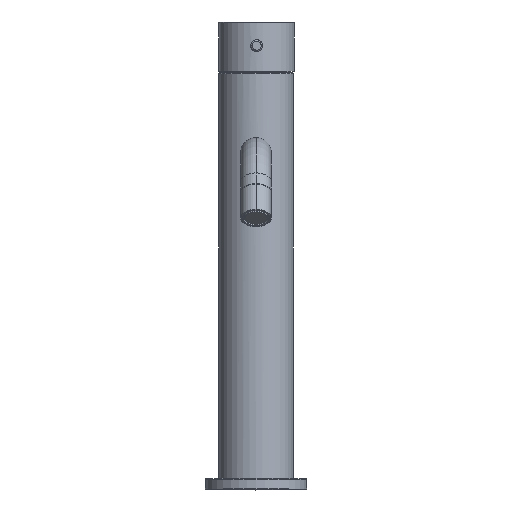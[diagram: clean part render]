
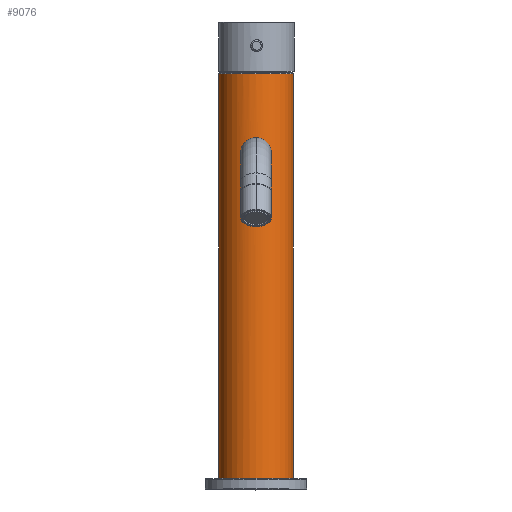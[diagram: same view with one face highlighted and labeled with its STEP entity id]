
A CAD part, top view. The second image highlights one B-rep face of the part: STEP entity #9076.
In plain terms, the highlighted cylindrical face has radius 22 mm (diameter 44 mm), a partial arc.
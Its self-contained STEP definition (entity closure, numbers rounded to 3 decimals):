
#1035=DIRECTION('',(0.,1.,0.));
#1036=VECTOR('',#1035,239.);
#1037=CARTESIAN_POINT('',(22.,-98.5,0.));
#1038=LINE('',#1037,#1036);
#1044=DIRECTION('',(0.,-1.,0.));
#1045=VECTOR('',#1044,239.);
#1046=CARTESIAN_POINT('',(-22.,140.5,
0.));
#1047=LINE('',#1046,#1045);
#2467=CARTESIAN_POINT('',(0.,140.5,0.));
#2468=DIRECTION('',(0.,-1.,0.));
#2469=DIRECTION('',(1.,0.,0.));
#2470=AXIS2_PLACEMENT_3D('',#2467,#2468,#2469);
#2472=CARTESIAN_POINT('',(0.,-98.5,0.));
#2473=DIRECTION('',(0.,1.,0.));
#2474=DIRECTION('',(-1.,0.,0.));
#2475=AXIS2_PLACEMENT_3D('',#2472,#2473,#2474);
#2477=CARTESIAN_POINT('',(-9.1,93.5,20.03));
#2478=CARTESIAN_POINT('',(-9.1,93.231,20.03));
#2479=CARTESIAN_POINT('',(-9.076,92.694,20.041));
#2480=CARTESIAN_POINT('',(-8.968,91.885,20.089));
#2481=CARTESIAN_POINT('',(-8.787,91.086,20.17));
#2482=CARTESIAN_POINT('',(-8.53,90.293,20.28));
#2483=CARTESIAN_POINT('',(-8.198,89.52,20.417));
#2484=CARTESIAN_POINT('',(-7.788,88.767,20.577));
#2485=CARTESIAN_POINT('',(-7.305,88.051,20.754));
#2486=CARTESIAN_POINT('',(-6.751,87.377,20.942));
#2487=CARTESIAN_POINT('',(-6.134,86.76,21.131));
#2488=CARTESIAN_POINT('',(-5.465,86.206,21.315));
#2489=CARTESIAN_POINT('',(-4.749,85.722,21.486));
#2490=CARTESIAN_POINT('',(-4.002,85.313,21.638));
#2491=CARTESIAN_POINT('',(-3.226,84.977,21.767));
#2492=CARTESIAN_POINT('',(-2.435,84.719,21.87));
#2493=CARTESIAN_POINT('',(-1.629,84.534,21.945));
#2494=CARTESIAN_POINT('',(-0.817,84.424,
21.99));
#2495=CARTESIAN_POINT('',(0.,84.388,
22.005));
#2496=CARTESIAN_POINT('',(0.817,84.424,21.99));
#2497=CARTESIAN_POINT('',(1.629,84.534,21.945));
#2498=CARTESIAN_POINT('',(2.435,84.719,21.87));
#2499=CARTESIAN_POINT('',(3.226,84.977,21.767));
#2500=CARTESIAN_POINT('',(4.002,85.313,21.638));
#2501=CARTESIAN_POINT('',(4.749,85.722,21.486));
#2502=CARTESIAN_POINT('',(5.465,86.206,21.315));
#2503=CARTESIAN_POINT('',(6.134,86.76,21.131));
#2504=CARTESIAN_POINT('',(6.751,87.377,20.942));
#2505=CARTESIAN_POINT('',(7.305,88.051,20.754));
#2506=CARTESIAN_POINT('',(7.788,88.767,20.577));
#2507=CARTESIAN_POINT('',(8.198,89.52,20.417));
#2508=CARTESIAN_POINT('',(8.53,90.293,20.28));
#2509=CARTESIAN_POINT('',(8.787,91.086,20.17));
#2510=CARTESIAN_POINT('',(8.968,91.885,20.089));
#2511=CARTESIAN_POINT('',(9.076,92.694,20.041));
#2512=CARTESIAN_POINT('',(9.1,93.231,20.03));
#2513=CARTESIAN_POINT('',(9.1,93.5,20.03));
#2515=CARTESIAN_POINT('',(9.1,93.5,20.03));
#2516=CARTESIAN_POINT('',(9.1,93.769,20.03));
#2517=CARTESIAN_POINT('',(9.076,94.306,20.041));
#2518=CARTESIAN_POINT('',(8.968,95.115,20.089));
#2519=CARTESIAN_POINT('',(8.787,95.914,20.17));
#2520=CARTESIAN_POINT('',(8.53,96.707,20.28));
#2521=CARTESIAN_POINT('',(8.198,97.48,20.417));
#2522=CARTESIAN_POINT('',(7.788,98.233,20.577));
#2523=CARTESIAN_POINT('',(7.305,98.949,20.754));
#2524=CARTESIAN_POINT('',(6.751,99.623,20.942));
#2525=CARTESIAN_POINT('',(6.134,100.24,21.131));
#2526=CARTESIAN_POINT('',(5.465,100.794,21.315));
#2527=CARTESIAN_POINT('',(4.749,101.278,21.486));
#2528=CARTESIAN_POINT('',(4.002,101.687,21.638));
#2529=CARTESIAN_POINT('',(3.226,102.023,21.767));
#2530=CARTESIAN_POINT('',(2.435,102.281,21.87));
#2531=CARTESIAN_POINT('',(1.629,102.466,21.945));
#2532=CARTESIAN_POINT('',(0.817,102.576,21.99));
#2533=CARTESIAN_POINT('',(0.,102.612,22.005));
#2534=CARTESIAN_POINT('',(-0.817,102.576,
21.99));
#2535=CARTESIAN_POINT('',(-1.629,102.466,21.945));
#2536=CARTESIAN_POINT('',(-2.435,102.281,21.87));
#2537=CARTESIAN_POINT('',(-3.226,102.023,21.767));
#2538=CARTESIAN_POINT('',(-4.002,101.687,21.638));
#2539=CARTESIAN_POINT('',(-4.749,101.278,21.486));
#2540=CARTESIAN_POINT('',(-5.465,100.794,21.315));
#2541=CARTESIAN_POINT('',(-6.134,100.24,21.131));
#2542=CARTESIAN_POINT('',(-6.751,99.623,20.942));
#2543=CARTESIAN_POINT('',(-7.305,98.949,20.754));
#2544=CARTESIAN_POINT('',(-7.788,98.233,20.577));
#2545=CARTESIAN_POINT('',(-8.198,97.48,20.417));
#2546=CARTESIAN_POINT('',(-8.53,96.707,20.28));
#2547=CARTESIAN_POINT('',(-8.787,95.914,20.17));
#2548=CARTESIAN_POINT('',(-8.968,95.115,20.089));
#2549=CARTESIAN_POINT('',(-9.076,94.306,20.041));
#2550=CARTESIAN_POINT('',(-9.1,93.769,20.03));
#2551=CARTESIAN_POINT('',(-9.1,93.5,20.03));
#5041=CARTESIAN_POINT('',(-22.,140.5,0.));
#5042=CARTESIAN_POINT('',(22.,140.5,0.));
#5043=VERTEX_POINT('',#5041);
#5044=VERTEX_POINT('',#5042);
#5143=VERTEX_POINT('',#2477);
#5144=VERTEX_POINT('',#2513);
#6424=CARTESIAN_POINT('',(-22.,-98.5,0.));
#6425=CARTESIAN_POINT('',(22.,-98.5,0.));
#6426=VERTEX_POINT('',#6424);
#6427=VERTEX_POINT('',#6425);
#9059=CARTESIAN_POINT('',(0.,-7.05,0.));
#9060=DIRECTION('',(0.,1.,0.));
#9061=DIRECTION('',(1.,0.,0.));
#9062=AXIS2_PLACEMENT_3D('',#9059,#9060,#9061);
#9063=CYLINDRICAL_SURFACE('',#9062,22.);
#9064=ORIENTED_EDGE('',*,*,#7188,.F.);
#9066=ORIENTED_EDGE('',*,*,#9065,.F.);
#9067=ORIENTED_EDGE('',*,*,#7185,.F.);
#9068=ORIENTED_EDGE('',*,*,#7204,.F.);
#9069=EDGE_LOOP('',(#9064,#9066,#9067,#9068));
#9070=FACE_OUTER_BOUND('',#9069,.F.);
#9072=ORIENTED_EDGE('',*,*,#9071,.T.);
#9073=ORIENTED_EDGE('',*,*,#9049,.T.);
#9074=EDGE_LOOP('',(#9072,#9073));
#9075=FACE_BOUND('',#9074,.F.);
#9076=ADVANCED_FACE('',(#9070,#9075),#9063,.T.);
#2471=CIRCLE('',#2470,22.);
#2476=CIRCLE('',#2475,22.);
#2514=B_SPLINE_CURVE_WITH_KNOTS('',3,(#2477,#2478,#2479,#2480,#2481,#2482,#2483,
#2484,#2485,#2486,#2487,#2488,#2489,#2490,#2491,#2492,#2493,#2494,#2495,#2496,
#2497,#2498,#2499,#2500,#2501,#2502,#2503,#2504,#2505,#2506,#2507,#2508,#2509,
#2510,#2511,#2512,#2513),.UNSPECIFIED.,.F.,.F.,(4,1,1,1,1,1,1,1,1,1,1,1,1,1,1,1,
1,1,1,1,1,1,1,1,1,1,1,1,1,1,1,1,1,1,4),(0.,0.029,
0.059,0.088,0.118,0.147,
0.176,0.206,0.235,0.265,
0.294,0.324,0.353,0.382,
0.412,0.441,0.471,0.5,0.529,
0.559,0.588,0.618,0.647,
0.676,0.706,0.735,0.765,
0.794,0.824,0.853,0.882,
0.912,0.941,0.971,1.),.UNSPECIFIED.);
#2552=B_SPLINE_CURVE_WITH_KNOTS('',3,(#2515,#2516,#2517,#2518,#2519,#2520,#2521,
#2522,#2523,#2524,#2525,#2526,#2527,#2528,#2529,#2530,#2531,#2532,#2533,#2534,
#2535,#2536,#2537,#2538,#2539,#2540,#2541,#2542,#2543,#2544,#2545,#2546,#2547,
#2548,#2549,#2550,#2551),.UNSPECIFIED.,.F.,.F.,(4,1,1,1,1,1,1,1,1,1,1,1,1,1,1,1,
1,1,1,1,1,1,1,1,1,1,1,1,1,1,1,1,1,1,4),(0.,0.029,
0.059,0.088,0.118,0.147,
0.176,0.206,0.235,0.265,
0.294,0.324,0.353,0.382,
0.412,0.441,0.471,0.5,0.529,
0.559,0.588,0.618,0.647,
0.676,0.706,0.735,0.765,
0.794,0.824,0.853,0.882,
0.912,0.941,0.971,1.),.UNSPECIFIED.);
#7185=EDGE_CURVE('',#6427,#5044,#1038,.T.);
#7188=EDGE_CURVE('',#5043,#6426,#1047,.T.);
#7204=EDGE_CURVE('',#6426,#6427,#2476,.T.);
#9049=EDGE_CURVE('',#5144,#5143,#2552,.T.);
#9065=EDGE_CURVE('',#5044,#5043,#2471,.T.);
#9071=EDGE_CURVE('',#5143,#5144,#2514,.T.);
